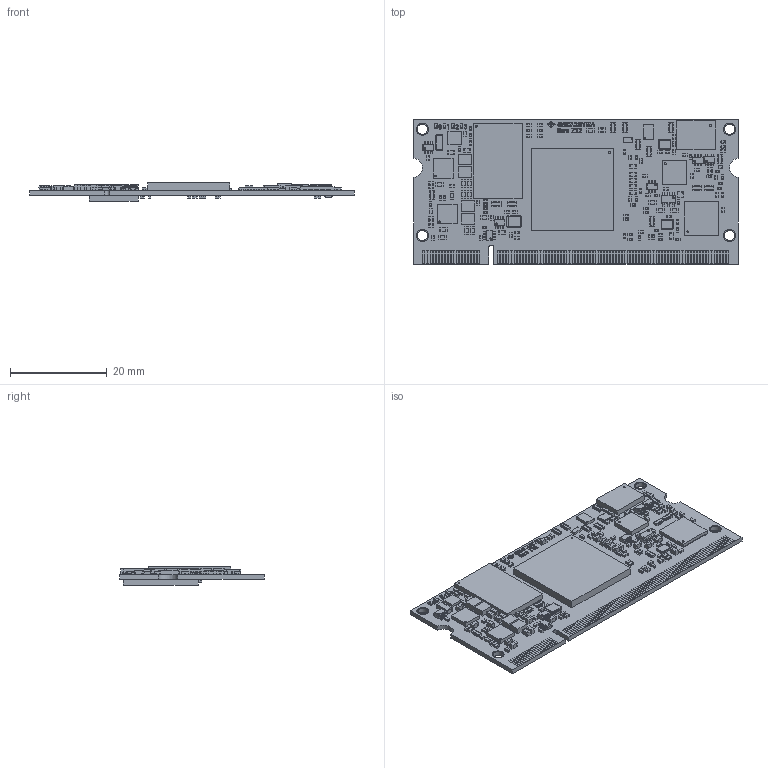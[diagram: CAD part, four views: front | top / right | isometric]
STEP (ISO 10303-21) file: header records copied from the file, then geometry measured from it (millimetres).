
FILE_DESCRIPTION(('Open CASCADE Model'),'2;1');
FILE_NAME('Open CASCADE Shape Model','2019-02-06T16:48:53',('Author'),( 'Open CASCADE'),'Open CASCADE STEP processor 6.8','Open CASCADE 6.8' ,'Unknown');
FILE_SCHEMA(('AUTOMOTIVE_DESIGN { 1 0 10303 214 1 1 1 1 }'));
Length unit declared in the file: millimetre
Products named in the file (289): --
Assembly tree (643 placements, depth 4):
  --
    --
    --
      --
    --
      --
    --
      --
    --
      --
    --
      --
    --
      --
    --
      --
    --
      --
    --
      --
    --
      --
    --
      --
    --
      --
    --
      --
    --
      --
    --
      --
    --
      --
    --
      --
    --
      --
    --
      --
    --
      --
    --
      --
    --
      --
    --
      --
    --
      --
    --
      --
    --
      --
    --
      --
    --
      --
    --
      --
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Bounding box: 67.2 x 30 x 3.85 mm (x, y, z)
Volume: 3124 mm3; surface area: 7680.7 mm2
Topology: 690 solids, 690 shells, 7557 faces, 17738 edges, 11515 vertices
Faces by surface type: plane 6498, extrusion 715, cylinder 311, sphere 28, torus 4, bspline 1
Full cylindrical faces by diameter (mm): 0.2 x2, 0.3 x3, 0.4 x5, 2.1 x4
Entity records: 91448 total; most frequent: CARTESIAN_POINT 18665, ORIENTED_EDGE 12490, DIRECTION 10465, EDGE_CURVE 6245, VECTOR 5247, LINE 4556, VERTEX_POINT 4065, AXIS2_PLACEMENT_3D 2609
